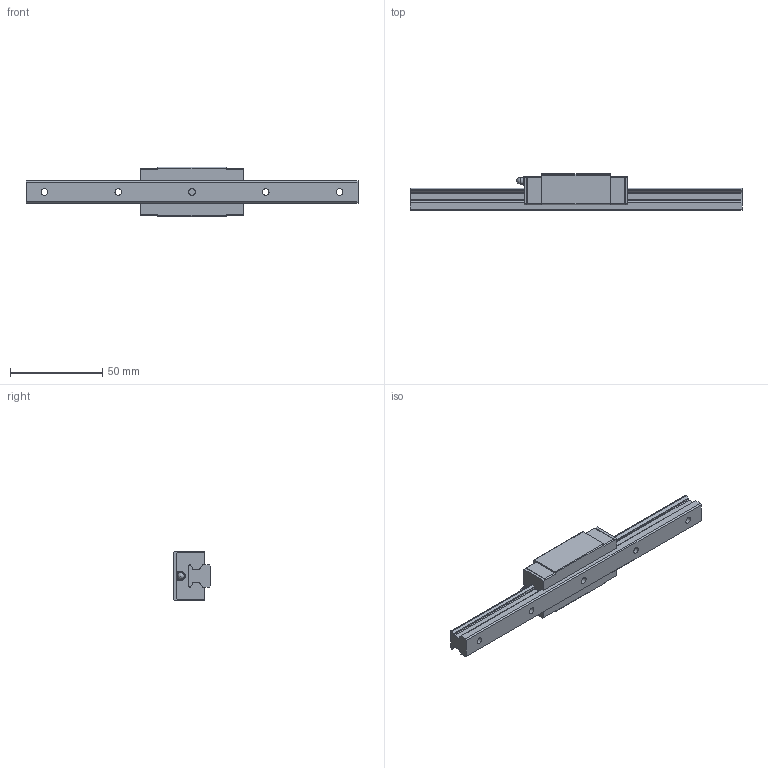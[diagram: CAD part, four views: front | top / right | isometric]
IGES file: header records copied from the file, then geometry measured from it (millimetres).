
Start section: Data from Parasolid IGES Translator 26.0.171, Copyright(c) 2006 Siemens PLM Software. All Rights Reserved.
Global section: file name: HRG12LRM1UU-180LHM_G10_0_PB107_61-9_0_0_01.igs; native system: By Siemens PLM Incorporated; preprocessor: XPlus GENERIC/IGES 26.0.171; author: Noname; organization: Noname; date: 20240523.112326; units: millimetre
Bounding box: 180 x 20 x 27 mm (x, y, z)
Surface area: 17468.6 mm2 (no closed solid volume)
Topology: 0 solids, 0 shells, 159 faces, 873 edges, 839 vertices
Faces by surface type: extrusion 96, revolution 63
